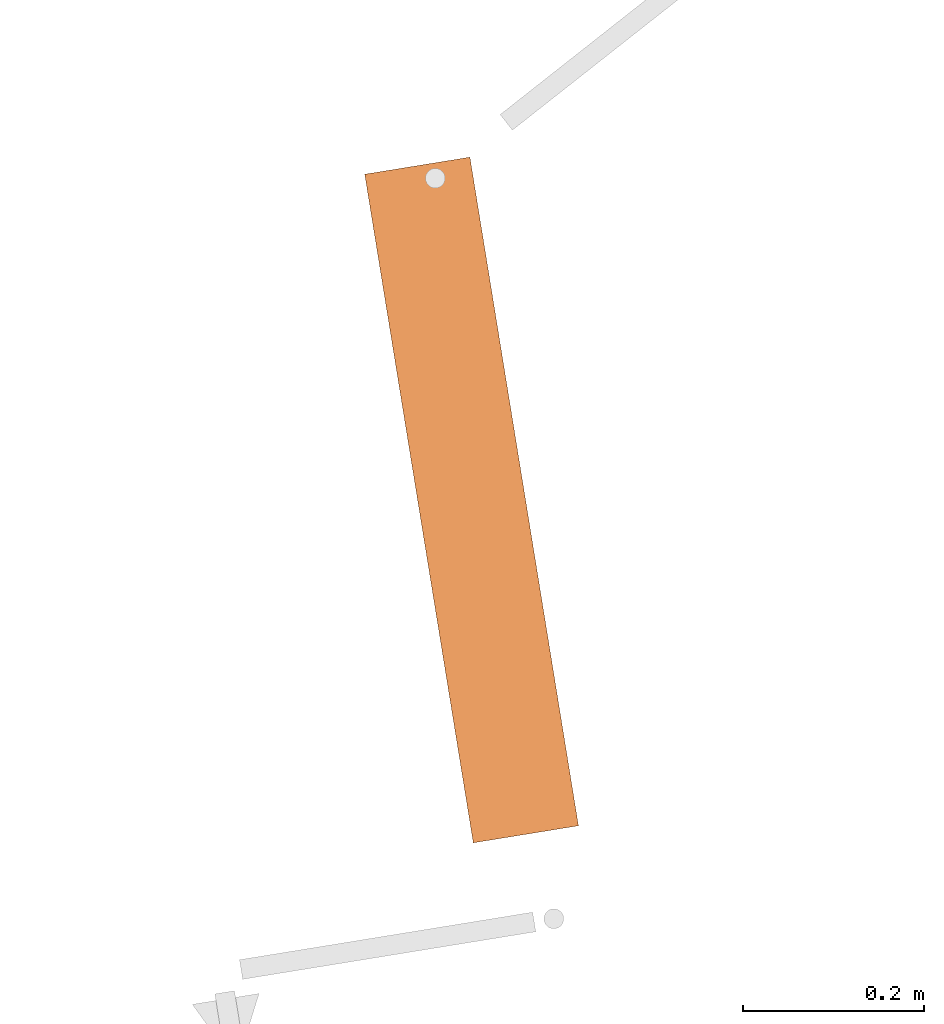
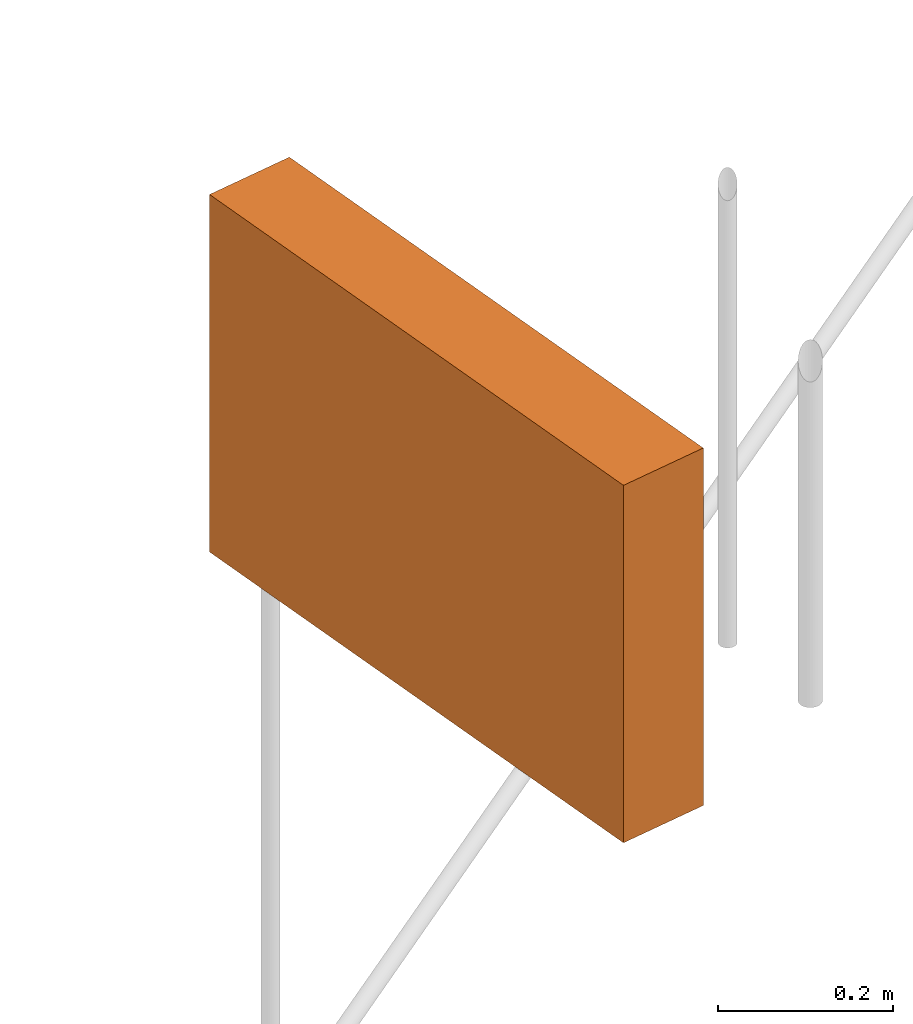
# One storey, part 11 of 11: 1 proxy.
"""IFC2X3 building model written with IfcOpenShell, lengths in millimetres."""

from ifc_helpers import new_model, entity, si_unit, converted_unit, derived_unit, direction, frame, origin, origin_with_axes, origin_2d_with_axis, place, context, subcontext, project, spatial, rectangle, extrude, source, transform, mapped, material, type_object, element, save


model = new_model("IFC2X3")

# Units and contexts
plan_context = context("Plan", 3, precision=1e-05, world=origin_with_axes())
model_context = context("Model", 3, precision=0.01, world=origin(), true_north=direction((6.12323399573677e-17, 1.0)))
body_context = subcontext(model_context, "Body", "Model", "MODEL_VIEW")
ifc_project = project(units=[converted_unit("PLANEANGLEUNIT", "DEGREE", entity("IfcPositiveLengthMeasure", 0.0174532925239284), si_unit("PLANEANGLEUNIT", "RADIAN"), dimensions=[0, 0, 0, 0, 0, 0, 0]), si_unit("AREAUNIT", "SQUARE_METRE"), si_unit("LENGTHUNIT", "METRE", prefix="MILLI"), si_unit("MASSUNIT", "GRAM", prefix="KILO"), si_unit("POWERUNIT", "WATT"), si_unit("PRESSUREUNIT", "PASCAL", prefix="KILO"), si_unit("FORCEUNIT", "NEWTON", prefix="KILO"), si_unit("ELECTRICVOLTAGEUNIT", "VOLT"), si_unit("ELECTRICCURRENTUNIT", "AMPERE"), si_unit("THERMODYNAMICTEMPERATUREUNIT", "DEGREE_CELSIUS"), si_unit("TIMEUNIT", "SECOND"), si_unit("VOLUMEUNIT", "CUBIC_METRE"), derived_unit("LINEARVELOCITYUNIT", [(si_unit("LENGTHUNIT", "METRE"), 1), (si_unit("TIMEUNIT", "SECOND"), -1)]), derived_unit("VOLUMETRICFLOWRATEUNIT", [(si_unit("VOLUMEUNIT", "CUBIC_METRE"), 1), (si_unit("TIMEUNIT", "SECOND"), -1)]), derived_unit("THERMALTRANSMITTANCEUNIT", [(si_unit("POWERUNIT", "WATT"), 1), (si_unit("THERMODYNAMICTEMPERATUREUNIT", "KELVIN"), -1), (si_unit("AREAUNIT", "SQUARE_METRE"), -1)]), derived_unit("SOUNDPRESSUREUNIT", [(si_unit("PRESSUREUNIT", "PASCAL"), 1)])], contexts=[model_context, plan_context])

# Site, building, storey
site_placement = place(None, frame((-0.000710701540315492, 0.00438415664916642, 0.0), z_axis=(0.0, 0.0, 1.0), x_axis=(-0.160236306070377, 0.987078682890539, 0.0)))
site = spatial("IfcSite", under=ifc_project, at=site_placement, Name="Default", CompositionType="ELEMENT")
building_placement = place(site_placement, origin_with_axes())
building = spatial("IfcBuilding", under=site, at=building_placement, CompositionType="ELEMENT")
storey_placement = place(building_placement, frame((0.0, 0.0, 58999.9999999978), z_axis=(0.0, 0.0, 1.0), x_axis=(1.0, 0.0, 0.0)))
storey = spatial("IfcBuildingStorey", under=building, at=storey_placement, Name="Nivå F", CompositionType="ELEMENT", Elevation=58999.9999999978)

# Proxy
ifc_material = material(Name="<Unnamed>")
building_element_proxy_type = type_object("IfcBuildingElementProxyType", Name="TAPPEVANN KURS - 12 -  - OR:TAPPEVANN KURS - 12 - 12 - OR001T", PredefinedType="NOTDEFINED", material=ifc_material)
shared_shape = source(origin(), body_context, "Body", "SweptSolid", [
    extrude(rectangle(XDim=118.0, YDim=750.0, at=origin_2d_with_axis()), frame((345.0, -136.0, 0.0), z_axis=(0.0, 0.0, 1.0), x_axis=(0.0, 1.0, 0.0)), (0.0, 0.0, 1.0), 500.0),
])
proxy_placement = place(storey_placement, frame((779267.336173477, -503461.909480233, 700.0), z_axis=(0.0, 0.0, 1.0), x_axis=(1.0, 0.0, 0.0)))
element("IfcBuildingElementProxy", 1, at=proxy_placement, inside=storey, type_object=building_element_proxy_type, material=ifc_material, Name="TAPPEVANN KURS - 12 -  - OR:TAPPEVANN KURS - 12 - 12 - OR001T", ObjectType="TAPPEVANN KURS - 12 -  - OR:TAPPEVANN KURS - 12 - 12 - OR001T", context=body_context, shape_type="MappedRepresentation", body=[
    mapped(shared_shape, transform((0.0, 0.0, 0.0), scale=1.0)),
])

save(model, "model.ifc")
